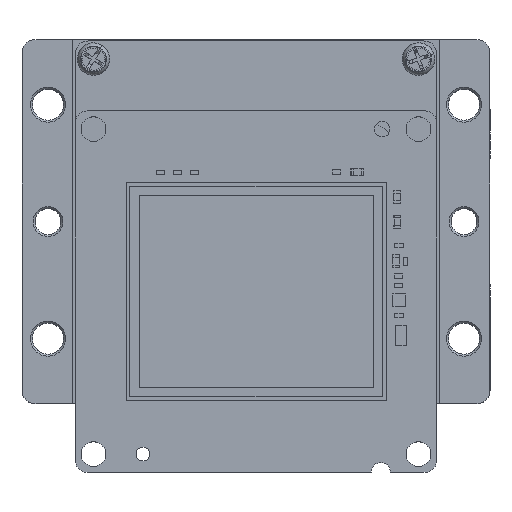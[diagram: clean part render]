
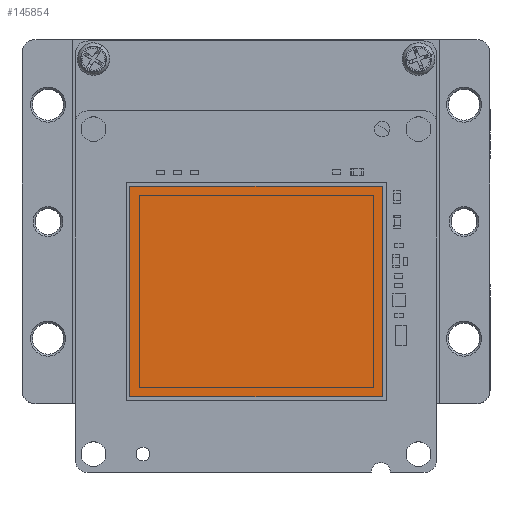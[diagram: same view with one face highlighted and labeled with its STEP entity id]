
A CAD part, top view. The second image highlights one B-rep face of the part: STEP entity #145854.
In plain terms, the highlighted planar face has unit normal (0, 0, 1).
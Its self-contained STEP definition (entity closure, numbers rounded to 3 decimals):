
#14359 = EDGE_CURVE ( 'NONE', #180516, #74587, #72087, .T. ) ;
#18272 = CARTESIAN_POINT ( 'NONE',  ( -9.7, -13.754, 154.49 ) ) ;
#18896 = ORIENTED_EDGE ( 'NONE', *, *, #14359, .T. ) ;
#24264 = CARTESIAN_POINT ( 'NONE',  ( -9.7, 2.446, 154.49 ) ) ;
#31136 = EDGE_CURVE ( 'NONE', #167049, #242454, #119536, .T. ) ;
#34185 = ORIENTED_EDGE ( 'NONE', *, *, #31136, .T. ) ;
#43719 = LINE ( 'NONE', #228588, #248450 ) ;
#57563 = DIRECTION ( 'NONE',  ( 0., 0., 1. ) ) ;
#58909 = FACE_OUTER_BOUND ( 'NONE', #252036, .T. ) ;
#61585 = PLANE ( 'NONE',  #116924 ) ;
#64576 = EDGE_CURVE ( 'NONE', #74587, #167049, #245211, .T. ) ;
#72087 = LINE ( 'NONE', #133247, #135651 ) ;
#74573 = ORIENTED_EDGE ( 'NONE', *, *, #64576, .T. ) ;
#74587 = VERTEX_POINT ( 'NONE', #24264 ) ;
#88936 = VECTOR ( 'NONE', #224839, 1000. ) ;
#91550 = EDGE_CURVE ( 'NONE', #242454, #180516, #43719, .T. ) ;
#115106 = CARTESIAN_POINT ( 'NONE',  ( 9.7, -13.754, 154.49 ) ) ;
#116924 = AXIS2_PLACEMENT_3D ( 'NONE', #206995, #57563, #125421 ) ;
#119536 = LINE ( 'NONE', #202474, #171604 ) ;
#125421 = DIRECTION ( 'NONE',  ( 1., 0., 0. ) ) ;
#133247 = CARTESIAN_POINT ( 'NONE',  ( -9.7, 2.446, 154.49 ) ) ;
#135651 = VECTOR ( 'NONE', #220205, 1000. ) ;
#141612 = DIRECTION ( 'NONE',  ( 0., 1., 0. ) ) ;
#145854 = ADVANCED_FACE ( 'NONE', ( #58909 ), #61585, .T. ) ;
#167049 = VERTEX_POINT ( 'NONE', #171789 ) ;
#171604 = VECTOR ( 'NONE', #245893, 1000. ) ;
#171789 = CARTESIAN_POINT ( 'NONE',  ( -9.7, -13.754, 154.49 ) ) ;
#180516 = VERTEX_POINT ( 'NONE', #265663 ) ;
#202474 = CARTESIAN_POINT ( 'NONE',  ( -9.7, -13.754, 154.49 ) ) ;
#206995 = CARTESIAN_POINT ( 'NONE',  ( 0., -5.654, 154.49 ) ) ;
#220205 = DIRECTION ( 'NONE',  ( -1., 0., 0. ) ) ;
#224839 = DIRECTION ( 'NONE',  ( 0., -1., 0. ) ) ;
#228588 = CARTESIAN_POINT ( 'NONE',  ( 9.7, -13.754, 154.49 ) ) ;
#242454 = VERTEX_POINT ( 'NONE', #115106 ) ;
#245211 = LINE ( 'NONE', #18272, #88936 ) ;
#245893 = DIRECTION ( 'NONE',  ( 1., 0., 0. ) ) ;
#248450 = VECTOR ( 'NONE', #141612, 1000. ) ;
#252036 = EDGE_LOOP ( 'NONE', ( #34185, #263807, #18896, #74573 ) ) ;
#263807 = ORIENTED_EDGE ( 'NONE', *, *, #91550, .T. ) ;
#265663 = CARTESIAN_POINT ( 'NONE',  ( 9.7, 2.446, 154.49 ) ) ;
